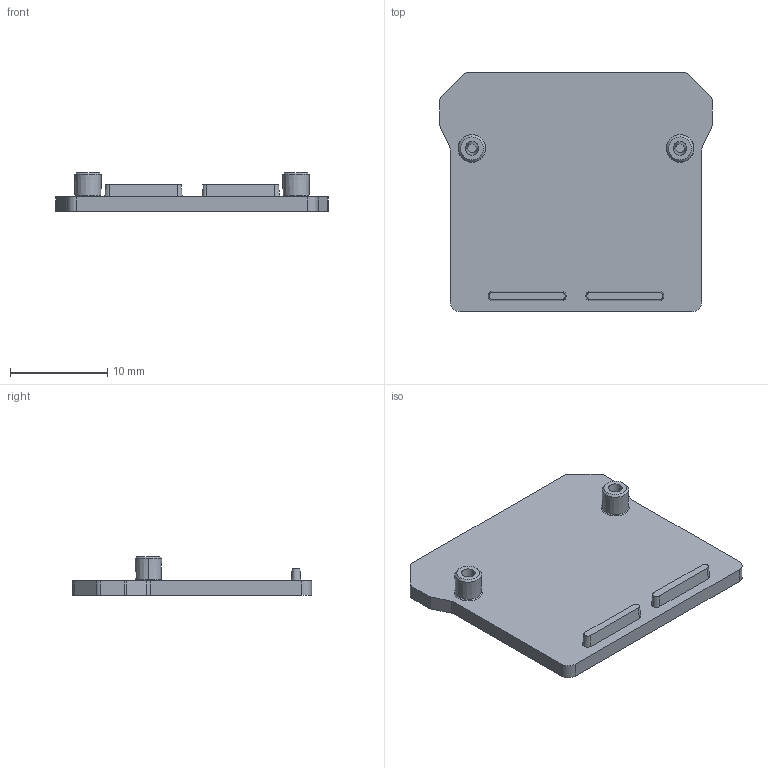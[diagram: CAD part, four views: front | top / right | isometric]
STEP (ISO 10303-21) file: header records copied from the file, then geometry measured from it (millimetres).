
FILE_DESCRIPTION((''),'2;1');
FILE_NAME('1492-EBM3','2019-08-07T14:07:08',('LYang26'),('Rockwell Automation'),'CREO PARAMETRIC BY PTC INC, 2017380','CREO PARAMETRIC BY PTC INC, 2017380','');
FILE_SCHEMA(('CONFIG_CONTROL_DESIGN'));
Length unit declared in the file: millimetre
Products named in the file (1): 1492-EBM3
Bounding box: 27.96 x 24.55 x 4 mm (x, y, z)
Volume: 940.8 mm3; surface area: 1581.6 mm2
Topology: 1 solids, 1 shells, 665 faces, 1873 edges, 1249 vertices
Faces by surface type: plane 605, cylinder 34, cone 24, sphere 2
Entity records: 21167 total; most frequent: CARTESIAN_POINT 3785, ORIENTED_EDGE 3742, DIRECTION 3325, EDGE_CURVE 1871, VECTOR 1747, LINE 1747, VERTEX_POINT 1249, AXIS2_PLACEMENT_3D 789
